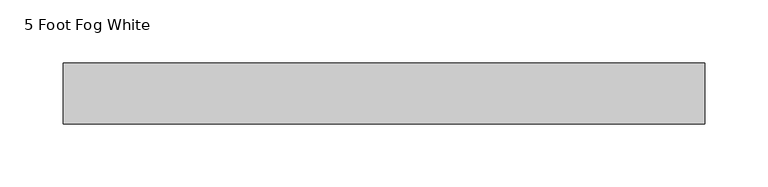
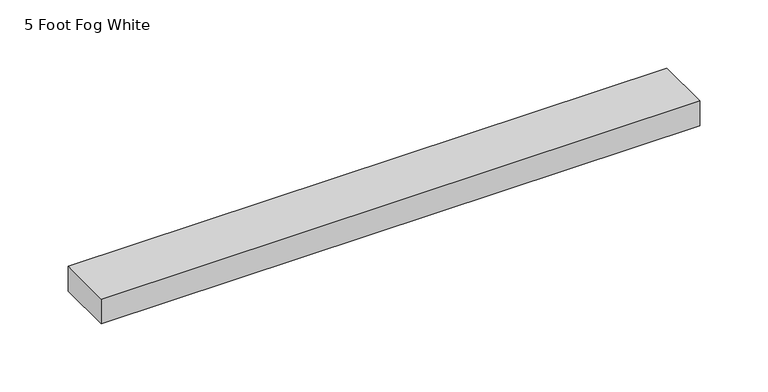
"""IFC4 building model written with IfcOpenShell, lengths in millimetres: proxy geometry, Raceway-2400_Series-Wiremold-Steel : 5 Foot Fog White."""

import ifcopenshell
import ifcopenshell.guid

model = None  # the IFC model being written
_history = None  # IfcOwnerHistory: only IFC2X3 demands one
_inside = {}  # id of a spatial element -> (the spatial element, [elements in it])
_under = {}  # id of a project, library or spatial element -> (it, [spatial elements below it])
_declared = {}  # id of a project -> (the project, [libraries it declares])
_typed = {}  # id of a type object -> (the type object, [elements of that type])
_made_of = {}  # id of a material, layer set ... -> (it, [elements and type objects made of it])


def new_model(schema):
    """Start an empty IFC model of exactly this schema.

    Asked for "IFC4X3", IfcOpenShell would pick the latest addendum, in which some entities
    have other attributes; the version numbers below select the first issue.
    IFC2X3 requires an IfcOwnerHistory on every rooted entity: one is made here for all.
    """
    global model, _history
    if schema == "IFC4X3":
        model = ifcopenshell.file(schema_version=(4, 3, 0, 0))
    else:
        model = ifcopenshell.file(schema=schema)
    _inside.clear()
    _under.clear()
    _declared.clear()
    _typed.clear()
    _made_of.clear()
    _history = None
    if model.schema == "IFC2X3":
        org = make("IfcOrganization", Name="unknown")
        user = make(
            "IfcPersonAndOrganization",
            ThePerson=make("IfcPerson", FamilyName="unknown"),
            TheOrganization=org,
        )
        app = make(
            "IfcApplication",
            ApplicationDeveloper=org,
            Version="unknown",
            ApplicationFullName="unknown",
            ApplicationIdentifier="unknown",
        )
        _history = make(
            "IfcOwnerHistory",
            OwningUser=user,
            OwningApplication=app,
            ChangeAction="ADDED",
            CreationDate=0,
        )
    return model


def make(cls, **values):
    """One entity of the class cls with the attributes given. An attribute that is None is left unset."""
    return model.create_entity(
        cls, **{name: value for name, value in values.items() if value is not None}
    )


def rooted(cls, **values):
    """An entity with a GlobalId (a new one), such as an element, a storey or a relation."""
    return make(cls, GlobalId=ifcopenshell.guid.new(), OwnerHistory=_history, **values)


def si_unit(unit_type, name, prefix=None):
    """IfcSIUnit, for example si_unit("LENGTHUNIT", "METRE", prefix="MILLI")."""
    return make("IfcSIUnit", UnitType=unit_type, Prefix=prefix, Name=name)


def assignment(units):
    """IfcUnitAssignment: the units of a project."""
    return None if units is None else make("IfcUnitAssignment", Units=units)


def point(xyz):
    """IfcCartesianPoint."""
    return None if xyz is None else make("IfcCartesianPoint", Coordinates=xyz)


def direction(xyz):
    """IfcDirection."""
    return None if xyz is None else make("IfcDirection", DirectionRatios=xyz)


def frame(location, z_axis=None, x_axis=None):
    """IfcAxis2Placement3D, a coordinate frame: its origin and axes. An axis left out is left unset."""
    return make(
        "IfcAxis2Placement3D",
        Location=point(location),
        Axis=direction(z_axis),
        RefDirection=direction(x_axis),
    )


def origin():
    """The frame at (0, 0, 0) with its axes left unset."""
    return frame((0.0, 0.0, 0.0))


def origin_with_axes():
    """The frame at (0, 0, 0) with the z axis (0, 0, 1) and the x axis (1, 0, 0) written out."""
    return frame((0.0, 0.0, 0.0), z_axis=(0.0, 0.0, 1.0), x_axis=(1.0, 0.0, 0.0))


def place(relative_to, where):
    """IfcLocalPlacement: puts the frame where relative to a parent placement (None: the world)."""
    return make(
        "IfcLocalPlacement", PlacementRelTo=relative_to, RelativePlacement=where
    )


def context(
    kind, dimensions, precision=None, world=None, true_north=None, identifier=None
):
    """IfcGeometricRepresentationContext, for example the 3D "Model" context."""
    return make(
        "IfcGeometricRepresentationContext",
        ContextIdentifier=identifier,
        ContextType=kind,
        CoordinateSpaceDimension=dimensions,
        Precision=precision,
        WorldCoordinateSystem=world,
        TrueNorth=true_north,
    )


def project(units=None, contexts=None):
    """IfcProject with its units and contexts."""
    return rooted(
        "IfcProject",
        Name="project",
        RepresentationContexts=contexts,
        UnitsInContext=assignment(units),
    )


def spatial(cls, under=None, at=None, **own):
    """A site, building, storey or space (cls), placed at a placement, below another one or the project."""
    s = rooted(cls, ObjectPlacement=at, **own)
    if under is not None:
        _under.setdefault(under.id(), (under, []))[1].append(s)
    return s


def polyline(points):
    """IfcPolyline through the points."""
    return make("IfcPolyline", Points=[point(p) for p in points])


def outline(outer, holes=None, kind="AREA"):
    """IfcArbitraryClosedProfileDef: a profile drawn as a closed curve; with holes, ...WithVoids."""
    if holes is None:
        return make("IfcArbitraryClosedProfileDef", ProfileType=kind, OuterCurve=outer)
    return make(
        "IfcArbitraryProfileDefWithVoids",
        ProfileType=kind,
        OuterCurve=outer,
        InnerCurves=holes,
    )


def extrude(swept, where, along, depth):
    """IfcExtrudedAreaSolid: the profile swept, set in the frame where, extruded along a direction by depth."""
    return make(
        "IfcExtrudedAreaSolid",
        SweptArea=swept,
        Position=where,
        ExtrudedDirection=direction(along),
        Depth=depth,
    )


def shape(context_of_items, identifier, shape_type, items):
    """IfcShapeRepresentation: the items that make up one representation, for example the "Body"."""
    return make(
        "IfcShapeRepresentation",
        ContextOfItems=context_of_items,
        RepresentationIdentifier=identifier,
        RepresentationType=shape_type,
        Items=items,
    )


def source(mapping_origin, context_of_items, identifier, shape_type, items):
    """IfcRepresentationMap: a shape defined once, which mapped items show again and again."""
    return make(
        "IfcRepresentationMap",
        MappingOrigin=mapping_origin,
        MappedRepresentation=shape(context_of_items, identifier, shape_type, items),
    )


def transform(
    local_origin,
    x_axis=None,
    y_axis=None,
    z_axis=None,
    scale=None,
    scale2=None,
    scale3=None,
    uniform=True,
):
    """IfcCartesianTransformationOperator3D, or its non-uniform kind. x_axis, y_axis, z_axis: its Axis1, 2, 3."""
    if uniform:
        return make(
            "IfcCartesianTransformationOperator3D",
            Axis1=direction(x_axis),
            Axis2=direction(y_axis),
            LocalOrigin=point(local_origin),
            Scale=scale,
            Axis3=direction(z_axis),
        )
    return make(
        "IfcCartesianTransformationOperator3DnonUniform",
        Axis1=direction(x_axis),
        Axis2=direction(y_axis),
        LocalOrigin=point(local_origin),
        Scale=scale,
        Axis3=direction(z_axis),
        Scale2=scale2,
        Scale3=scale3,
    )


def mapped(mapping_source, mapping_target):
    """IfcMappedItem: shows the shape of a source again, moved by a transform."""
    return make(
        "IfcMappedItem", MappingSource=mapping_source, MappingTarget=mapping_target
    )


def made_of(thing, what):
    """Note that an element or type object is made of a material, layer set ...; save() writes the relation."""
    if what is not None:
        _made_of.setdefault(what.id(), (what, []))[1].append(thing)
    return thing


def element(
    cls,
    number,
    at=None,
    inside=None,
    cuts=None,
    type_object=None,
    material=None,
    context=None,
    identifier="Body",
    shape_type=None,
    held_by="IfcProductDefinitionShape",
    body=None,
    shapes=None,
    **own,
):
    """One element of the class cls, such as IfcWall. Its Tag is "e" and its number.

    at: its placement. inside: the storey or other place that contains it. cuts: it is an
    opening in that element (IfcRelVoidsElement). A single representation is given by context,
    identifier, shape_type and body (its items); several are given by shapes. held_by: the class
    of the entity that holds the representations. save() writes the other relations.
    """
    e = rooted(cls, Tag="e%d" % number, ObjectPlacement=at, **own)
    if body is not None:
        shapes = [shape(context, identifier, shape_type, body)]
    if shapes is not None:
        e.Representation = make(held_by, Representations=shapes)
    if inside is not None:
        _inside.setdefault(inside.id(), (inside, []))[1].append(e)
    if cuts is not None:
        rooted(
            "IfcRelVoidsElement", RelatingBuildingElement=cuts, RelatedOpeningElement=e
        )
    if type_object is not None:
        _typed.setdefault(type_object.id(), (type_object, []))[1].append(e)
    return made_of(e, material)


def aggregate(whole, parts):
    """IfcRelAggregates: a whole, such as a stair, and the parts it consists of."""
    return rooted("IfcRelAggregates", RelatingObject=whole, RelatedObjects=parts)


def save(model, path):
    """Write the relations noted so far, then the file.

    IfcRelAggregates (storeys below a building ...), IfcRelContainedInSpatialStructure (elements
    in a storey), IfcRelDefinesByType, IfcRelAssociatesMaterial and IfcRelDeclares: one each for
    every whole, place, type object, material and project.
    """
    for whole, parts in _under.values():
        aggregate(whole, parts)
    for where, things in _inside.values():
        rooted(
            "IfcRelContainedInSpatialStructure",
            RelatedElements=things,
            RelatingStructure=where,
        )
    for kind, things in _typed.values():
        rooted("IfcRelDefinesByType", RelatedObjects=things, RelatingType=kind)
    for what, things in _made_of.values():
        rooted("IfcRelAssociatesMaterial", RelatedObjects=things, RelatingMaterial=what)
    for by, libraries in _declared.values():
        rooted("IfcRelDeclares", RelatingContext=by, RelatedDefinitions=libraries)
    model.write(path)


def proxy_5_foot_fog_white_44e3194b(model_context):
    return source(origin(), model_context, "Body", "SweptSolid", [
        extrude(outline(polyline([(508.0, 24.2062), (508.0, -24.2062), (0.0, -24.2062), (0.0, 24.2062), (508.0, 24.2062)])), origin_with_axes(), (0.0, 0.0, 1.0), 22.225),
    ])


if __name__ == "__main__":
    model = new_model("IFC4")
    model_context = context("Model", 3, world=origin())
    ifc_project = project(units=[si_unit("LENGTHUNIT", "METRE", prefix="MILLI")], contexts=[model_context])
    site = spatial("IfcSite", under=ifc_project)
    building = spatial("IfcBuilding", under=site)
    placement = place(None, origin())
    proxy_5_foot_fog_white_shape = proxy_5_foot_fog_white_44e3194b(model_context)
    element("IfcBuildingElementProxy", 1, Name="Raceway-2400_Series-Wiremold-Steel : 5 Foot Fog White", ObjectType="Raceway-2400_Series-Wiremold-Steel : 5 Foot Fog White", at=placement, inside=building, context=model_context, shape_type="MappedRepresentation", body=[
        mapped(proxy_5_foot_fog_white_shape, transform((0.0, 0.0, 0.0), x_axis=(1.0, 0.0, 0.0), y_axis=(0.0, 1.0, 0.0), z_axis=(0.0, 0.0, 1.0))),
    ])
    save(model, "model.ifc")
